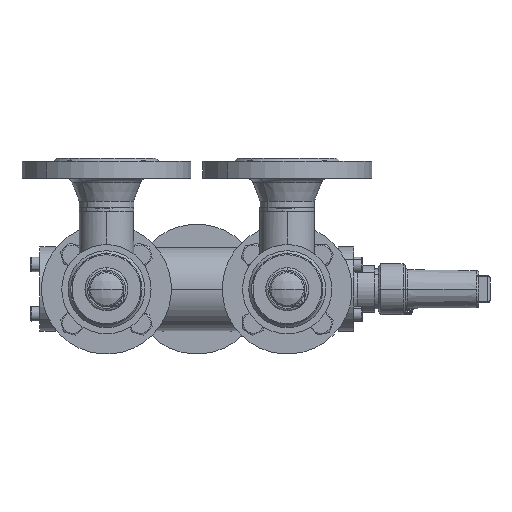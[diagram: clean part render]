
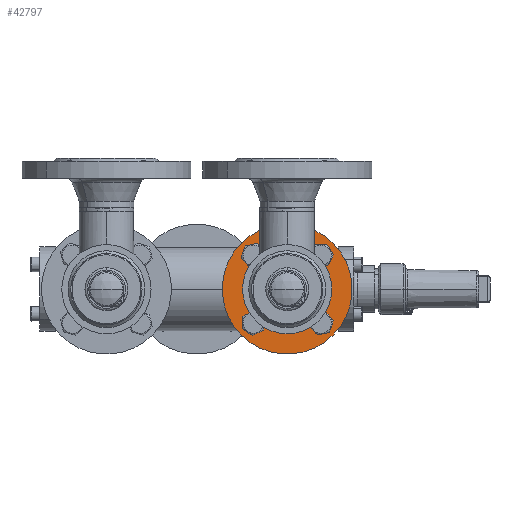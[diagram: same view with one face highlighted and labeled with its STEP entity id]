
A CAD part, left-side view. The second image highlights one B-rep face of the part: STEP entity #42797.
In plain terms, the highlighted planar face has unit normal (-1, 0, 0) as drawn and (0, 1, 0) by its records, which use the part's own axes.
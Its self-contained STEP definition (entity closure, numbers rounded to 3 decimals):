
#317 = FACE_BOUND ( 'NONE', #42099, .T. ) ;
#318 = FACE_BOUND ( 'NONE', #36785, .T. ) ;
#319 = FACE_BOUND ( 'NONE', #13095, .T. ) ;
#320 = FACE_BOUND ( 'NONE', #9694, .T. ) ;
#321 = FACE_BOUND ( 'NONE', #6286, .T. ) ;
#322 = FACE_OUTER_BOUND ( 'NONE', #23167, .T. ) ;
#323 = PLANE ( 'NONE',  #324 ) ;
#324 = AXIS2_PLACEMENT_3D ( 'NONE', #325, #361, #362 ) ;
#325 = CARTESIAN_POINT ( 'NONE',  ( 57.5, 18., 0. ) ) ;
#361 = DIRECTION ( 'NONE',  ( 0., -1., 0. ) ) ;
#362 = DIRECTION ( 'NONE',  ( 1., 0., 0. ) ) ;
#890 = CARTESIAN_POINT ( 'NONE',  ( -49.5, 18., 0. ) ) ;
#1035 = EDGE_CURVE ( 'NONE', #28571, #30862, #5754, .T. ) ;
#1058 = CARTESIAN_POINT ( 'NONE',  ( 57.5, 18., 0. ) ) ;
#1329 = CIRCLE ( 'NONE', #1330, 7. ) ;
#1330 = AXIS2_PLACEMENT_3D ( 'NONE', #1331, #1332, #1370 ) ;
#1331 = CARTESIAN_POINT ( 'NONE',  ( -42.5, 18., 0. ) ) ;
#1332 = DIRECTION ( 'NONE',  ( 0., 1., 0. ) ) ;
#1370 = DIRECTION ( 'NONE',  ( 1., 0., 0. ) ) ;
#18831 = CIRCLE ( 'NONE', #18832, 7. ) ;
#18832 = AXIS2_PLACEMENT_3D ( 'NONE', #18833, #18834, #18835 ) ;
#18833 = CARTESIAN_POINT ( 'NONE',  ( 0., 18., 42.5 ) ) ;
#18834 = DIRECTION ( 'NONE',  ( 0., 1., 0. ) ) ;
#18835 = DIRECTION ( 'NONE',  ( 0., 0., -1. ) ) ;
#35744 = VERTEX_POINT ( 'NONE', #28000 ) ;
#35746 = ORIENTED_EDGE ( 'NONE', *, *, #14677, .F. ) ;
#19584 = VERTEX_POINT ( 'NONE', #38428 ) ;
#19614 = CARTESIAN_POINT ( 'NONE',  ( -25.748, 18., 0. ) ) ;
#19648 = CARTESIAN_POINT ( 'NONE',  ( -7., 18., 42.5 ) ) ;
#19924 = EDGE_CURVE ( 'NONE', #22215, #19584, #39298, .T. ) ;
#20035 = CIRCLE ( 'NONE', #20061, 25.748 ) ;
#20042 = EDGE_CURVE ( 'NONE', #19584, #22215, #40230, .T. ) ;
#20061 = AXIS2_PLACEMENT_3D ( 'NONE', #20062, #20063, #20064 ) ;
#20062 = CARTESIAN_POINT ( 'NONE',  ( 0., 18., 0. ) ) ;
#20063 = DIRECTION ( 'NONE',  ( 0., 1., 0. ) ) ;
#20064 = DIRECTION ( 'NONE',  ( -1., 0., 0. ) ) ;
#20327 = CIRCLE ( 'NONE', #20328, 7. ) ;
#20328 = AXIS2_PLACEMENT_3D ( 'NONE', #20329, #20330, #20331 ) ;
#20329 = CARTESIAN_POINT ( 'NONE',  ( 0., 18., 42.5 ) ) ;
#20330 = DIRECTION ( 'NONE',  ( 0., 1., 0. ) ) ;
#20331 = DIRECTION ( 'NONE',  ( 0., 0., -1. ) ) ;
#36785 = EDGE_LOOP ( 'NONE', ( #35746, #13594 ) ) ;
#20684 = ORIENTED_EDGE ( 'NONE', *, *, #19924, .T. ) ;
#37493 = ORIENTED_EDGE ( 'NONE', *, *, #13407, .F. ) ;
#4796 = CARTESIAN_POINT ( 'NONE',  ( -35.5, 18., 0. ) ) ;
#21759 = ORIENTED_EDGE ( 'NONE', *, *, #20042, .T. ) ;
#21986 = VERTEX_POINT ( 'NONE', #890 ) ;
#38428 = CARTESIAN_POINT ( 'NONE',  ( -57.5, 18., 0. ) ) ;
#5754 = CIRCLE ( 'NONE', #5755, 25.748 ) ;
#5755 = AXIS2_PLACEMENT_3D ( 'NONE', #5756, #5757, #5758 ) ;
#5756 = CARTESIAN_POINT ( 'NONE',  ( 0., 18., 0. ) ) ;
#5757 = DIRECTION ( 'NONE',  ( 0., 1., 0. ) ) ;
#5758 = DIRECTION ( 'NONE',  ( -1., 0., 0. ) ) ;
#22215 = VERTEX_POINT ( 'NONE', #1058 ) ;
#22441 = EDGE_CURVE ( 'NONE', #24269, #21986, #1329, .T. ) ;
#39003 = EDGE_CURVE ( 'NONE', #12938, #35744, #30578, .T. ) ;
#6286 = EDGE_LOOP ( 'NONE', ( #24730, #23666 ) ) ;
#22887 = CARTESIAN_POINT ( 'NONE',  ( 25.748, 18., 0. ) ) ;
#22924 = CARTESIAN_POINT ( 'NONE',  ( 7., 18., 42.5 ) ) ;
#39298 = CIRCLE ( 'NONE', #39299, 57.5 ) ;
#39299 = AXIS2_PLACEMENT_3D ( 'NONE', #39300, #39301, #39302 ) ;
#39300 = CARTESIAN_POINT ( 'NONE',  ( 0., 18., 0. ) ) ;
#39301 = DIRECTION ( 'NONE',  ( 0., 1., 0. ) ) ;
#39302 = DIRECTION ( 'NONE',  ( -1., 0., 0. ) ) ;
#23167 = EDGE_LOOP ( 'NONE', ( #21759, #20684 ) ) ;
#6787 = ORIENTED_EDGE ( 'NONE', *, *, #13633, .F. ) ;
#23666 = ORIENTED_EDGE ( 'NONE', *, *, #29025, .F. ) ;
#40087 = ORIENTED_EDGE ( 'NONE', *, *, #39003, .F. ) ;
#40230 = CIRCLE ( 'NONE', #40231, 57.5 ) ;
#40231 = AXIS2_PLACEMENT_3D ( 'NONE', #40269, #40270, #40271 ) ;
#40269 = CARTESIAN_POINT ( 'NONE',  ( 0., 18., 0. ) ) ;
#40270 = DIRECTION ( 'NONE',  ( 0., 1., 0. ) ) ;
#40271 = DIRECTION ( 'NONE',  ( -1., 0., 0. ) ) ;
#23973 = CARTESIAN_POINT ( 'NONE',  ( -7., 18., -42.5 ) ) ;
#24116 = CARTESIAN_POINT ( 'NONE',  ( 35.5, 18., 0. ) ) ;
#7852 = EDGE_CURVE ( 'NONE', #13176, #15464, #13224, .T. ) ;
#24269 = VERTEX_POINT ( 'NONE', #4796 ) ;
#24354 = CIRCLE ( 'NONE', #24355, 7. ) ;
#24355 = AXIS2_PLACEMENT_3D ( 'NONE', #24356, #24357, #24380 ) ;
#24356 = CARTESIAN_POINT ( 'NONE',  ( 0., 18., -42.5 ) ) ;
#24357 = DIRECTION ( 'NONE',  ( 0., 1., 0. ) ) ;
#24380 = DIRECTION ( 'NONE',  ( 0., 0., 1. ) ) ;
#24496 = CIRCLE ( 'NONE', #24497, 7. ) ;
#24497 = AXIS2_PLACEMENT_3D ( 'NONE', #24498, #24499, #24500 ) ;
#24498 = CARTESIAN_POINT ( 'NONE',  ( 42.5, 18., 0. ) ) ;
#24499 = DIRECTION ( 'NONE',  ( 0., 1., 0. ) ) ;
#24500 = DIRECTION ( 'NONE',  ( -1., 0., 0. ) ) ;
#24730 = ORIENTED_EDGE ( 'NONE', *, *, #1035, .F. ) ;
#8621 = ORIENTED_EDGE ( 'NONE', *, *, #7852, .F. ) ;
#42099 = EDGE_LOOP ( 'NONE', ( #40087, #37493 ) ) ;
#9694 = EDGE_LOOP ( 'NONE', ( #8621, #6787 ) ) ;
#42797 = ADVANCED_FACE ( 'NONE', ( #317, #318, #319, #320, #321, #322 ), #323, .F. ) ;
#10204 = ORIENTED_EDGE ( 'NONE', *, *, #29110, .F. ) ;
#11269 = EDGE_CURVE ( 'NONE', #28649, #30935, #18831, .T. ) ;
#28000 = CARTESIAN_POINT ( 'NONE',  ( 7., 18., -42.5 ) ) ;
#12036 = ORIENTED_EDGE ( 'NONE', *, *, #11269, .F. ) ;
#28571 = VERTEX_POINT ( 'NONE', #19614 ) ;
#28649 = VERTEX_POINT ( 'NONE', #19648 ) ;
#28994 = CIRCLE ( 'NONE', #28995, 7. ) ;
#28995 = AXIS2_PLACEMENT_3D ( 'NONE', #28996, #28997, #28998 ) ;
#28996 = CARTESIAN_POINT ( 'NONE',  ( -42.5, 18., 0. ) ) ;
#28997 = DIRECTION ( 'NONE',  ( 0., 1., 0. ) ) ;
#28998 = DIRECTION ( 'NONE',  ( 1., 0., 0. ) ) ;
#29025 = EDGE_CURVE ( 'NONE', #30862, #28571, #20035, .T. ) ;
#29110 = EDGE_CURVE ( 'NONE', #30935, #28649, #20327, .T. ) ;
#12938 = VERTEX_POINT ( 'NONE', #23973 ) ;
#13095 = EDGE_LOOP ( 'NONE', ( #12036, #10204 ) ) ;
#13176 = VERTEX_POINT ( 'NONE', #24116 ) ;
#13224 = CIRCLE ( 'NONE', #13225, 7. ) ;
#13225 = AXIS2_PLACEMENT_3D ( 'NONE', #13226, #13227, #13228 ) ;
#13226 = CARTESIAN_POINT ( 'NONE',  ( 42.5, 18., 0. ) ) ;
#13227 = DIRECTION ( 'NONE',  ( 0., 1., 0. ) ) ;
#13228 = DIRECTION ( 'NONE',  ( -1., 0., 0. ) ) ;
#13407 = EDGE_CURVE ( 'NONE', #35744, #12938, #24354, .T. ) ;
#29915 = CARTESIAN_POINT ( 'NONE',  ( 49.5, 18., 0. ) ) ;
#13594 = ORIENTED_EDGE ( 'NONE', *, *, #22441, .F. ) ;
#13633 = EDGE_CURVE ( 'NONE', #15464, #13176, #24496, .T. ) ;
#30578 = CIRCLE ( 'NONE', #30579, 7. ) ;
#30579 = AXIS2_PLACEMENT_3D ( 'NONE', #30580, #30581, #30582 ) ;
#30580 = CARTESIAN_POINT ( 'NONE',  ( 0., 18., -42.5 ) ) ;
#30581 = DIRECTION ( 'NONE',  ( 0., 1., 0. ) ) ;
#30582 = DIRECTION ( 'NONE',  ( 0., 0., 1. ) ) ;
#30862 = VERTEX_POINT ( 'NONE', #22887 ) ;
#30935 = VERTEX_POINT ( 'NONE', #22924 ) ;
#14677 = EDGE_CURVE ( 'NONE', #21986, #24269, #28994, .T. ) ;
#15464 = VERTEX_POINT ( 'NONE', #29915 ) ;
